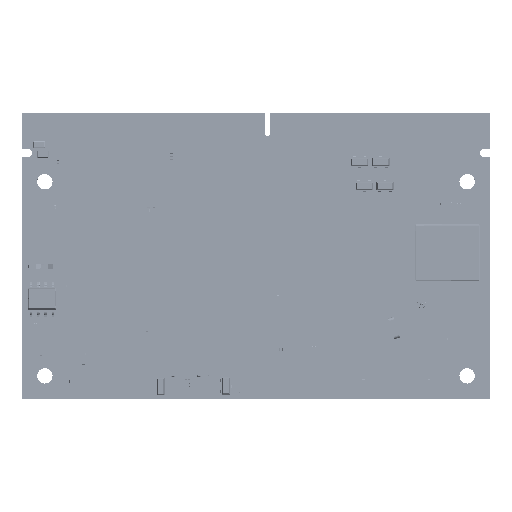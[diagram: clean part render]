
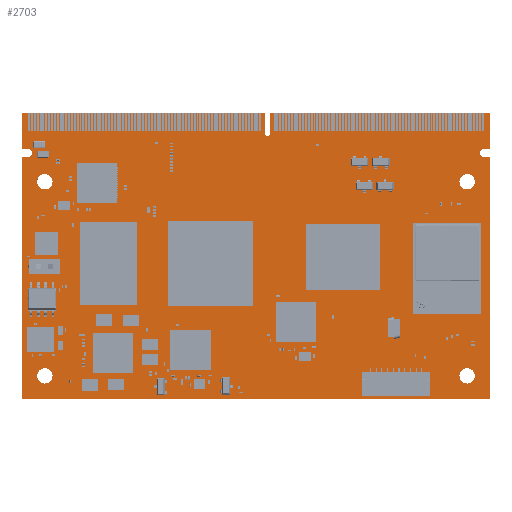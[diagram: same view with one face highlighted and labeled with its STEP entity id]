
A CAD part, top view. The second image highlights one B-rep face of the part: STEP entity #2703.
In plain terms, the highlighted planar face has unit normal (0, 0, 1).
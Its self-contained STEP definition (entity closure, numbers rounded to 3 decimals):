
#1780 = VERTEX_POINT('',#1781);
#1781 = CARTESIAN_POINT('',(0.,0.,1.237));
#1787 = EDGE_CURVE('',#1780,#1788,#1790,.T.);
#1788 = VERTEX_POINT('',#1789);
#1789 = CARTESIAN_POINT('',(0.,42.3,1.237));
#1790 = LINE('',#1791,#1792);
#1791 = CARTESIAN_POINT('',(0.,0.,1.237));
#1792 = VECTOR('',#1793,1.);
#1793 = DIRECTION('',(0.,1.,0.));
#1818 = EDGE_CURVE('',#1788,#1819,#1821,.T.);
#1819 = VERTEX_POINT('',#1820);
#1820 = CARTESIAN_POINT('',(0.811,42.3,1.237));
#1821 = LINE('',#1822,#1823);
#1822 = CARTESIAN_POINT('',(0.,42.3,1.237));
#1823 = VECTOR('',#1824,1.);
#1824 = DIRECTION('',(1.,0.,0.));
#1849 = EDGE_CURVE('',#1819,#1850,#1852,.T.);
#1850 = VERTEX_POINT('',#1851);
#1851 = CARTESIAN_POINT('',(1.05,42.3,1.237));
#1852 = LINE('',#1853,#1854);
#1853 = CARTESIAN_POINT('',(0.811,42.3,1.237));
#1854 = VECTOR('',#1855,1.);
#1855 = DIRECTION('',(1.,0.,0.));
#1880 = EDGE_CURVE('',#1850,#1881,#1883,.T.);
#1881 = VERTEX_POINT('',#1882);
#1882 = CARTESIAN_POINT('',(1.7,42.95,1.237));
#1883 = CIRCLE('',#1884,0.649);
#1884 = AXIS2_PLACEMENT_3D('',#1885,#1886,#1887);
#1885 = CARTESIAN_POINT('',(1.051,42.949,1.237));
#1886 = DIRECTION('',(0.,0.,1.));
#1887 = DIRECTION('',(-0.002,-1.,0.));
#1913 = EDGE_CURVE('',#1881,#1914,#1916,.T.);
#1914 = VERTEX_POINT('',#1915);
#1915 = CARTESIAN_POINT('',(1.7,43.15,1.237));
#1916 = LINE('',#1917,#1918);
#1917 = CARTESIAN_POINT('',(1.7,42.95,1.237));
#1918 = VECTOR('',#1919,1.);
#1919 = DIRECTION('',(0.,1.,0.));
#1944 = EDGE_CURVE('',#1914,#1945,#1947,.T.);
#1945 = VERTEX_POINT('',#1946);
#1946 = CARTESIAN_POINT('',(1.05,43.8,1.237));
#1947 = CIRCLE('',#1948,0.649);
#1948 = AXIS2_PLACEMENT_3D('',#1949,#1950,#1951);
#1949 = CARTESIAN_POINT('',(1.051,43.151,1.237));
#1950 = DIRECTION('',(0.,0.,1.));
#1951 = DIRECTION('',(1.,-0.002,0.));
#1977 = EDGE_CURVE('',#1945,#1978,#1980,.T.);
#1978 = VERTEX_POINT('',#1979);
#1979 = CARTESIAN_POINT('',(0.811,43.8,1.237));
#1980 = LINE('',#1981,#1982);
#1981 = CARTESIAN_POINT('',(1.05,43.8,1.237));
#1982 = VECTOR('',#1983,1.);
#1983 = DIRECTION('',(-1.,0.,0.));
#2008 = EDGE_CURVE('',#1978,#2009,#2011,.T.);
#2009 = VERTEX_POINT('',#2010);
#2010 = CARTESIAN_POINT('',(0.,43.8,1.237));
#2011 = LINE('',#2012,#2013);
#2012 = CARTESIAN_POINT('',(0.811,43.8,1.237));
#2013 = VECTOR('',#2014,1.);
#2014 = DIRECTION('',(-1.,0.,0.));
#2039 = EDGE_CURVE('',#2009,#2040,#2042,.T.);
#2040 = VERTEX_POINT('',#2041);
#2041 = CARTESIAN_POINT('',(0.,50.,1.237));
#2042 = LINE('',#2043,#2044);
#2043 = CARTESIAN_POINT('',(0.,43.8,1.237));
#2044 = VECTOR('',#2045,1.);
#2045 = DIRECTION('',(0.,1.,0.));
#2070 = EDGE_CURVE('',#2040,#2071,#2073,.T.);
#2071 = VERTEX_POINT('',#2072);
#2072 = CARTESIAN_POINT('',(42.5,50.,1.237));
#2073 = LINE('',#2074,#2075);
#2074 = CARTESIAN_POINT('',(0.,50.,1.237));
#2075 = VECTOR('',#2076,1.);
#2076 = DIRECTION('',(1.,0.,0.));
#2101 = EDGE_CURVE('',#2071,#2102,#2104,.T.);
#2102 = VERTEX_POINT('',#2103);
#2103 = CARTESIAN_POINT('',(42.5,46.508,1.237));
#2104 = LINE('',#2105,#2106);
#2105 = CARTESIAN_POINT('',(42.5,50.,1.237));
#2106 = VECTOR('',#2107,1.);
#2107 = DIRECTION('',(0.,-1.,0.));
#2132 = EDGE_CURVE('',#2102,#2133,#2135,.T.);
#2133 = VERTEX_POINT('',#2134);
#2134 = CARTESIAN_POINT('',(43.5,46.508,1.237));
#2135 = CIRCLE('',#2136,0.5);
#2136 = AXIS2_PLACEMENT_3D('',#2137,#2138,#2139);
#2137 = CARTESIAN_POINT('',(43.,46.508,1.237));
#2138 = DIRECTION('',(0.,0.,1.));
#2139 = DIRECTION('',(-1.,0.,-0.));
#2165 = EDGE_CURVE('',#2133,#2166,#2168,.T.);
#2166 = VERTEX_POINT('',#2167);
#2167 = CARTESIAN_POINT('',(43.5,50.,1.237));
#2168 = LINE('',#2169,#2170);
#2169 = CARTESIAN_POINT('',(43.5,46.508,1.237));
#2170 = VECTOR('',#2171,1.);
#2171 = DIRECTION('',(0.,1.,0.));
#2196 = EDGE_CURVE('',#2166,#2197,#2199,.T.);
#2197 = VERTEX_POINT('',#2198);
#2198 = CARTESIAN_POINT('',(82.,50.,1.237));
#2199 = LINE('',#2200,#2201);
#2200 = CARTESIAN_POINT('',(43.5,50.,1.237));
#2201 = VECTOR('',#2202,1.);
#2202 = DIRECTION('',(1.,0.,0.));
#2227 = EDGE_CURVE('',#2197,#2228,#2230,.T.);
#2228 = VERTEX_POINT('',#2229);
#2229 = CARTESIAN_POINT('',(82.,43.8,1.237));
#2230 = LINE('',#2231,#2232);
#2231 = CARTESIAN_POINT('',(82.,50.,1.237));
#2232 = VECTOR('',#2233,1.);
#2233 = DIRECTION('',(0.,-1.,0.));
#2258 = EDGE_CURVE('',#2228,#2259,#2261,.T.);
#2259 = VERTEX_POINT('',#2260);
#2260 = CARTESIAN_POINT('',(81.189,43.8,1.237));
#2261 = LINE('',#2262,#2263);
#2262 = CARTESIAN_POINT('',(82.,43.8,1.237));
#2263 = VECTOR('',#2264,1.);
#2264 = DIRECTION('',(-1.,0.,0.));
#2289 = EDGE_CURVE('',#2259,#2290,#2292,.T.);
#2290 = VERTEX_POINT('',#2291);
#2291 = CARTESIAN_POINT('',(80.95,43.8,1.237));
#2292 = LINE('',#2293,#2294);
#2293 = CARTESIAN_POINT('',(81.189,43.8,1.237));
#2294 = VECTOR('',#2295,1.);
#2295 = DIRECTION('',(-1.,0.,0.));
#2320 = EDGE_CURVE('',#2290,#2321,#2323,.T.);
#2321 = VERTEX_POINT('',#2322);
#2322 = CARTESIAN_POINT('',(80.3,43.15,1.237));
#2323 = CIRCLE('',#2324,0.649);
#2324 = AXIS2_PLACEMENT_3D('',#2325,#2326,#2327);
#2325 = CARTESIAN_POINT('',(80.949,43.151,1.237));
#2326 = DIRECTION('',(0.,0.,1.));
#2327 = DIRECTION('',(0.002,1.,-0.));
#2353 = EDGE_CURVE('',#2321,#2354,#2356,.T.);
#2354 = VERTEX_POINT('',#2355);
#2355 = CARTESIAN_POINT('',(80.3,42.95,1.237));
#2356 = LINE('',#2357,#2358);
#2357 = CARTESIAN_POINT('',(80.3,43.15,1.237));
#2358 = VECTOR('',#2359,1.);
#2359 = DIRECTION('',(0.,-1.,0.));
#2384 = EDGE_CURVE('',#2354,#2385,#2387,.T.);
#2385 = VERTEX_POINT('',#2386);
#2386 = CARTESIAN_POINT('',(80.95,42.3,1.237));
#2387 = CIRCLE('',#2388,0.649);
#2388 = AXIS2_PLACEMENT_3D('',#2389,#2390,#2391);
#2389 = CARTESIAN_POINT('',(80.949,42.949,1.237));
#2390 = DIRECTION('',(0.,0.,1.));
#2391 = DIRECTION('',(-1.,0.002,0.));
#2417 = EDGE_CURVE('',#2385,#2418,#2420,.T.);
#2418 = VERTEX_POINT('',#2419);
#2419 = CARTESIAN_POINT('',(81.189,42.3,1.237));
#2420 = LINE('',#2421,#2422);
#2421 = CARTESIAN_POINT('',(80.95,42.3,1.237));
#2422 = VECTOR('',#2423,1.);
#2423 = DIRECTION('',(1.,0.,0.));
#2448 = EDGE_CURVE('',#2418,#2449,#2451,.T.);
#2449 = VERTEX_POINT('',#2450);
#2450 = CARTESIAN_POINT('',(82.,42.3,1.237));
#2451 = LINE('',#2452,#2453);
#2452 = CARTESIAN_POINT('',(81.189,42.3,1.237));
#2453 = VECTOR('',#2454,1.);
#2454 = DIRECTION('',(1.,0.,0.));
#2479 = EDGE_CURVE('',#2449,#2480,#2482,.T.);
#2480 = VERTEX_POINT('',#2481);
#2481 = CARTESIAN_POINT('',(82.,0.,1.237));
#2482 = LINE('',#2483,#2484);
#2483 = CARTESIAN_POINT('',(82.,42.3,1.237));
#2484 = VECTOR('',#2485,1.);
#2485 = DIRECTION('',(0.,-1.,0.));
#2510 = EDGE_CURVE('',#2480,#1780,#2511,.T.);
#2511 = LINE('',#2512,#2513);
#2512 = CARTESIAN_POINT('',(82.,0.,1.237));
#2513 = VECTOR('',#2514,1.);
#2514 = DIRECTION('',(-1.,0.,0.));
#2534 = VERTEX_POINT('',#2535);
#2535 = CARTESIAN_POINT('',(5.35,4.,1.237));
#2541 = EDGE_CURVE('',#2534,#2534,#2542,.T.);
#2542 = CIRCLE('',#2543,1.35);
#2543 = AXIS2_PLACEMENT_3D('',#2544,#2545,#2546);
#2544 = CARTESIAN_POINT('',(4.,4.,1.237));
#2545 = DIRECTION('',(0.,0.,1.));
#2546 = DIRECTION('',(1.,0.,-0.));
#2567 = VERTEX_POINT('',#2568);
#2568 = CARTESIAN_POINT('',(5.35,38.,1.237));
#2574 = EDGE_CURVE('',#2567,#2567,#2575,.T.);
#2575 = CIRCLE('',#2576,1.35);
#2576 = AXIS2_PLACEMENT_3D('',#2577,#2578,#2579);
#2577 = CARTESIAN_POINT('',(4.,38.,1.237));
#2578 = DIRECTION('',(0.,0.,1.));
#2579 = DIRECTION('',(1.,0.,-0.));
#2600 = VERTEX_POINT('',#2601);
#2601 = CARTESIAN_POINT('',(79.35,4.,1.237));
#2607 = EDGE_CURVE('',#2600,#2600,#2608,.T.);
#2608 = CIRCLE('',#2609,1.35);
#2609 = AXIS2_PLACEMENT_3D('',#2610,#2611,#2612);
#2610 = CARTESIAN_POINT('',(78.,4.,1.237));
#2611 = DIRECTION('',(0.,0.,1.));
#2612 = DIRECTION('',(1.,0.,-0.));
#2633 = VERTEX_POINT('',#2634);
#2634 = CARTESIAN_POINT('',(79.35,38.,1.237));
#2640 = EDGE_CURVE('',#2633,#2633,#2641,.T.);
#2641 = CIRCLE('',#2642,1.35);
#2642 = AXIS2_PLACEMENT_3D('',#2643,#2644,#2645);
#2643 = CARTESIAN_POINT('',(78.,38.,1.237));
#2644 = DIRECTION('',(0.,0.,1.));
#2645 = DIRECTION('',(1.,0.,-0.));
#2703 = ADVANCED_FACE('',(#2704,#2730,#2733,#2736,#2739),#2742,.F.);
#2704 = FACE_BOUND('',#2705,.F.);
#2705 = EDGE_LOOP('',(#2706,#2707,#2708,#2709,#2710,#2711,#2712,#2713,
    #2714,#2715,#2716,#2717,#2718,#2719,#2720,#2721,#2722,#2723,#2724,
    #2725,#2726,#2727,#2728,#2729));
#2706 = ORIENTED_EDGE('',*,*,#1787,.T.);
#2707 = ORIENTED_EDGE('',*,*,#1818,.T.);
#2708 = ORIENTED_EDGE('',*,*,#1849,.T.);
#2709 = ORIENTED_EDGE('',*,*,#1880,.T.);
#2710 = ORIENTED_EDGE('',*,*,#1913,.T.);
#2711 = ORIENTED_EDGE('',*,*,#1944,.T.);
#2712 = ORIENTED_EDGE('',*,*,#1977,.T.);
#2713 = ORIENTED_EDGE('',*,*,#2008,.T.);
#2714 = ORIENTED_EDGE('',*,*,#2039,.T.);
#2715 = ORIENTED_EDGE('',*,*,#2070,.T.);
#2716 = ORIENTED_EDGE('',*,*,#2101,.T.);
#2717 = ORIENTED_EDGE('',*,*,#2132,.T.);
#2718 = ORIENTED_EDGE('',*,*,#2165,.T.);
#2719 = ORIENTED_EDGE('',*,*,#2196,.T.);
#2720 = ORIENTED_EDGE('',*,*,#2227,.T.);
#2721 = ORIENTED_EDGE('',*,*,#2258,.T.);
#2722 = ORIENTED_EDGE('',*,*,#2289,.T.);
#2723 = ORIENTED_EDGE('',*,*,#2320,.T.);
#2724 = ORIENTED_EDGE('',*,*,#2353,.T.);
#2725 = ORIENTED_EDGE('',*,*,#2384,.T.);
#2726 = ORIENTED_EDGE('',*,*,#2417,.T.);
#2727 = ORIENTED_EDGE('',*,*,#2448,.T.);
#2728 = ORIENTED_EDGE('',*,*,#2479,.T.);
#2729 = ORIENTED_EDGE('',*,*,#2510,.T.);
#2730 = FACE_BOUND('',#2731,.F.);
#2731 = EDGE_LOOP('',(#2732));
#2732 = ORIENTED_EDGE('',*,*,#2541,.T.);
#2733 = FACE_BOUND('',#2734,.F.);
#2734 = EDGE_LOOP('',(#2735));
#2735 = ORIENTED_EDGE('',*,*,#2574,.T.);
#2736 = FACE_BOUND('',#2737,.F.);
#2737 = EDGE_LOOP('',(#2738));
#2738 = ORIENTED_EDGE('',*,*,#2607,.T.);
#2739 = FACE_BOUND('',#2740,.F.);
#2740 = EDGE_LOOP('',(#2741));
#2741 = ORIENTED_EDGE('',*,*,#2640,.T.);
#2742 = PLANE('',#2743);
#2743 = AXIS2_PLACEMENT_3D('',#2744,#2745,#2746);
#2744 = CARTESIAN_POINT('',(41.054,25.978,1.237));
#2745 = DIRECTION('',(-0.,-0.,-1.));
#2746 = DIRECTION('',(-1.,0.,0.));
